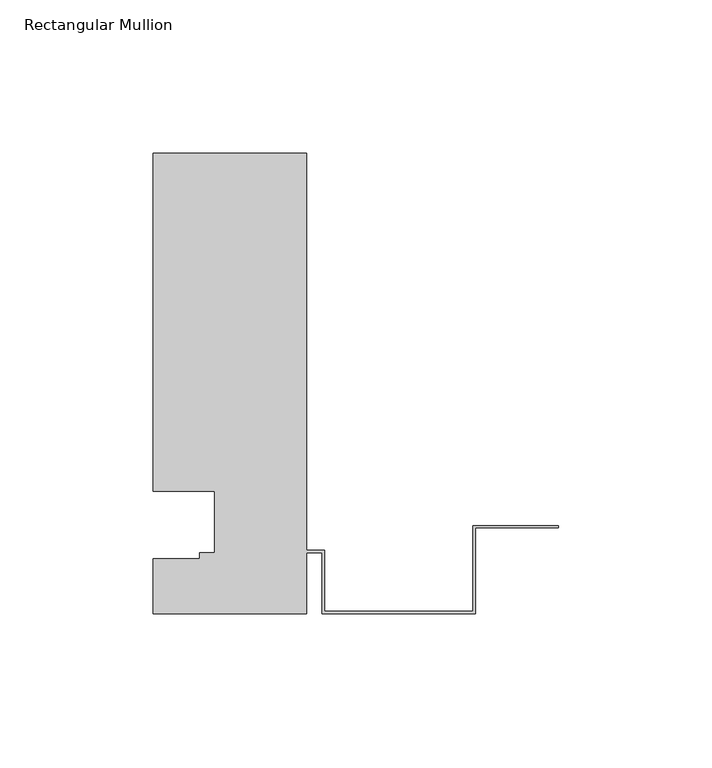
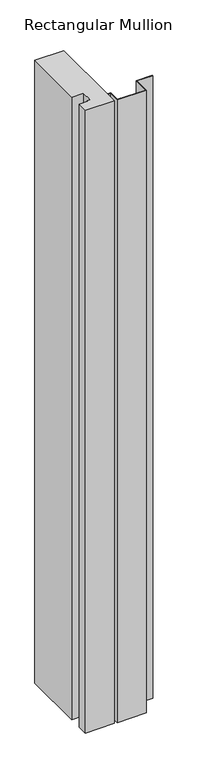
"""IFC4 building model written with IfcOpenShell, lengths in millimetres: member geometry, Rectangular Mullion : TR_CW_ALU_border_GROOVE."""

from ifc_helpers import new_model, si_unit, frame, origin, place, context, project, spatial, polyline, outline, extrude, source, transform, mapped, element, save


def rectangular_mullion_d88ccec7(model_context):
    return source(origin(), model_context, "Body", "SweptSolid", [
        extrude(outline(polyline([(-132.0, 0.0), (-132.0, 18.0204111), (-117.0, 18.0204111), (-117.0, 20.0), (-112.0, 20.0), (-112.0, 40.0), (-132.0, 40.0), (-132.0, 150.0), (-82.0, 150.0), (-82.0, 20.8), (-76.2, 20.8), (-76.2, 0.8), (-27.8, 0.8), (-27.8, 28.8), (0.0, 28.8), (0.0, 28.0), (-27.0, 28.0), (-27.0, 0.0), (-77.0, 0.0), (-77.0, 20.0), (-82.0, 20.0), (-82.0, 0.0), (-132.0, 0.0)])), frame((0.0, 0.0, -1132.5), z_axis=(0.0, 0.0, 1.0), x_axis=(1.0, 0.0, 0.0)), (0.0, 0.0, 1.0), 1132.5),
    ])


if __name__ == "__main__":
    model = new_model("IFC4")
    model_context = context("Model", 3, world=origin())
    ifc_project = project(units=[si_unit("LENGTHUNIT", "METRE", prefix="MILLI")], contexts=[model_context])
    site = spatial("IfcSite", under=ifc_project)
    building = spatial("IfcBuilding", under=site)
    placement = place(None, origin())
    rectangular_mullion_shape = rectangular_mullion_d88ccec7(model_context)
    element("IfcMember", 1, ObjectType="Rectangular Mullion : TR_CW_ALU_border_GROOVE", at=placement, inside=building, context=model_context, shape_type="MappedRepresentation", body=[
        mapped(rectangular_mullion_shape, transform((0.0, 0.0, 0.0), x_axis=(1.0, 0.0, 0.0), y_axis=(0.0, 1.0, 0.0), z_axis=(0.0, 0.0, 1.0))),
    ])
    save(model, "model.ifc")
